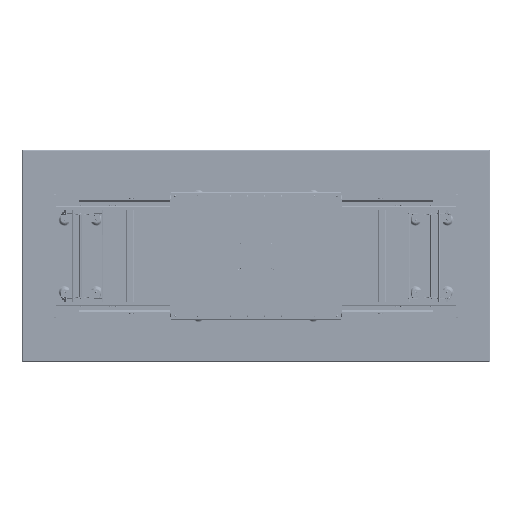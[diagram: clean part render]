
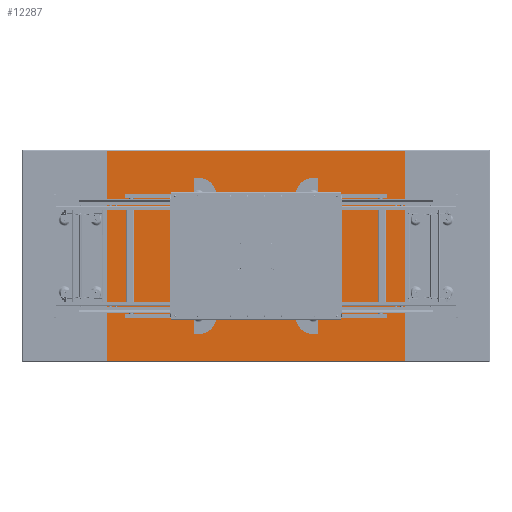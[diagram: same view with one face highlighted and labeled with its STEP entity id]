
A CAD part, front view. The second image highlights one B-rep face of the part: STEP entity #12287.
In plain terms, the highlighted planar face has unit normal (0, -1, 0).
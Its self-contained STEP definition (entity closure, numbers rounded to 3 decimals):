
#2455 = FACE_OUTER_BOUND ( 'NONE', #38819, .T. ) ;
#2509 = ORIENTED_EDGE ( 'NONE', *, *, #21102, .F. ) ;
#4591 = CARTESIAN_POINT ( 'NONE',  ( -700., 0., -494. ) ) ;
#5324 = ORIENTED_EDGE ( 'NONE', *, *, #10770, .T. ) ;
#6460 = VECTOR ( 'NONE', #69290, 1000. ) ;
#6960 = VERTEX_POINT ( 'NONE', #38562 ) ;
#10770 = EDGE_CURVE ( 'NONE', #23815, #49431, #44405, .T. ) ;
#11419 = LINE ( 'NONE', #56546, #37493 ) ;
#12287 = ADVANCED_FACE ( 'NONE', ( #2455 ), #25128, .F. ) ;
#16253 = DIRECTION ( 'NONE',  ( 1., 0., 0. ) ) ;
#17514 = ORIENTED_EDGE ( 'NONE', *, *, #71188, .T. ) ;
#21102 = EDGE_CURVE ( 'NONE', #23815, #6960, #61801, .T. ) ;
#21938 = CARTESIAN_POINT ( 'NONE',  ( -700., 0., -500. ) ) ;
#23815 = VERTEX_POINT ( 'NONE', #4591 ) ;
#25128 = PLANE ( 'NONE',  #37021 ) ;
#25842 = DIRECTION ( 'NONE',  ( 0., 0., 1. ) ) ;
#26672 = DIRECTION ( 'NONE',  ( 0., 0., 1. ) ) ;
#33011 = VECTOR ( 'NONE', #16253, 1000. ) ;
#34951 = LINE ( 'NONE', #52670, #6460 ) ;
#37021 = AXIS2_PLACEMENT_3D ( 'NONE', #59795, #65001, #25842 ) ;
#37493 = VECTOR ( 'NONE', #26672, 1000. ) ;
#38562 = CARTESIAN_POINT ( 'NONE',  ( -700., 0., 494. ) ) ;
#38819 = EDGE_LOOP ( 'NONE', ( #2509, #5324, #17514, #69627 ) ) ;
#44405 = LINE ( 'NONE', #56166, #33011 ) ;
#49431 = VERTEX_POINT ( 'NONE', #58803 ) ;
#50423 = DIRECTION ( 'NONE',  ( 0., 0., 1. ) ) ;
#52177 = VERTEX_POINT ( 'NONE', #71153 ) ;
#52670 = CARTESIAN_POINT ( 'NONE',  ( -700., 0., 494. ) ) ;
#56166 = CARTESIAN_POINT ( 'NONE',  ( 0., 0., -494. ) ) ;
#56546 = CARTESIAN_POINT ( 'NONE',  ( 700., 0., -500. ) ) ;
#58803 = CARTESIAN_POINT ( 'NONE',  ( 700., 0., -494. ) ) ;
#59795 = CARTESIAN_POINT ( 'NONE',  ( 0., 0., 0. ) ) ;
#60927 = VECTOR ( 'NONE', #50423, 1000. ) ;
#61801 = LINE ( 'NONE', #21938, #60927 ) ;
#65001 = DIRECTION ( 'NONE',  ( 0., 1., 0. ) ) ;
#67796 = EDGE_CURVE ( 'NONE', #52177, #6960, #34951, .T. ) ;
#69290 = DIRECTION ( 'NONE',  ( -1., 0., 0. ) ) ;
#69627 = ORIENTED_EDGE ( 'NONE', *, *, #67796, .T. ) ;
#71153 = CARTESIAN_POINT ( 'NONE',  ( 700., 0., 494. ) ) ;
#71188 = EDGE_CURVE ( 'NONE', #49431, #52177, #11419, .T. ) ;
